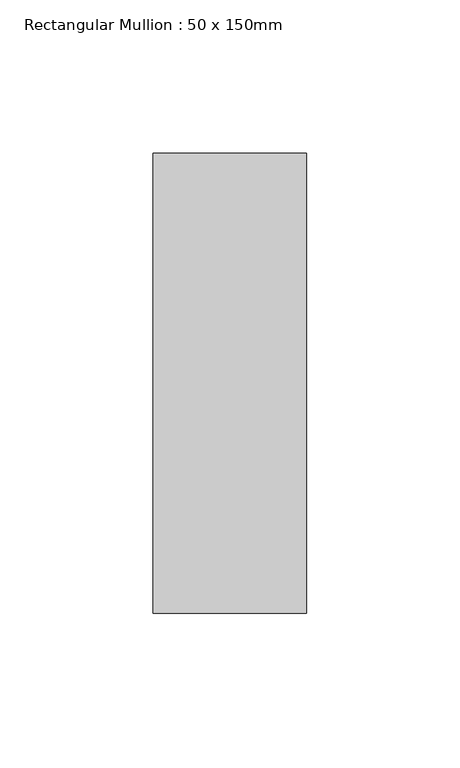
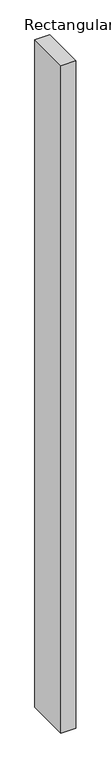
"""IFC4 building model written with IfcOpenShell, lengths in millimetres: member geometry, Rectangular Mullion : 50 x 150mm."""

import ifcopenshell
import ifcopenshell.guid

model = None  # the IFC model being written
_history = None  # IfcOwnerHistory: only IFC2X3 demands one
_inside = {}  # id of a spatial element -> (the spatial element, [elements in it])
_under = {}  # id of a project, library or spatial element -> (it, [spatial elements below it])
_declared = {}  # id of a project -> (the project, [libraries it declares])
_typed = {}  # id of a type object -> (the type object, [elements of that type])
_made_of = {}  # id of a material, layer set ... -> (it, [elements and type objects made of it])


def new_model(schema):
    """Start an empty IFC model of exactly this schema.

    Asked for "IFC4X3", IfcOpenShell would pick the latest addendum, in which some entities
    have other attributes; the version numbers below select the first issue.
    IFC2X3 requires an IfcOwnerHistory on every rooted entity: one is made here for all.
    """
    global model, _history
    if schema == "IFC4X3":
        model = ifcopenshell.file(schema_version=(4, 3, 0, 0))
    else:
        model = ifcopenshell.file(schema=schema)
    _inside.clear()
    _under.clear()
    _declared.clear()
    _typed.clear()
    _made_of.clear()
    _history = None
    if model.schema == "IFC2X3":
        org = make("IfcOrganization", Name="unknown")
        user = make(
            "IfcPersonAndOrganization",
            ThePerson=make("IfcPerson", FamilyName="unknown"),
            TheOrganization=org,
        )
        app = make(
            "IfcApplication",
            ApplicationDeveloper=org,
            Version="unknown",
            ApplicationFullName="unknown",
            ApplicationIdentifier="unknown",
        )
        _history = make(
            "IfcOwnerHistory",
            OwningUser=user,
            OwningApplication=app,
            ChangeAction="ADDED",
            CreationDate=0,
        )
    return model


def make(cls, **values):
    """One entity of the class cls with the attributes given. An attribute that is None is left unset."""
    return model.create_entity(
        cls, **{name: value for name, value in values.items() if value is not None}
    )


def rooted(cls, **values):
    """An entity with a GlobalId (a new one), such as an element, a storey or a relation."""
    return make(cls, GlobalId=ifcopenshell.guid.new(), OwnerHistory=_history, **values)


def si_unit(unit_type, name, prefix=None):
    """IfcSIUnit, for example si_unit("LENGTHUNIT", "METRE", prefix="MILLI")."""
    return make("IfcSIUnit", UnitType=unit_type, Prefix=prefix, Name=name)


def assignment(units):
    """IfcUnitAssignment: the units of a project."""
    return None if units is None else make("IfcUnitAssignment", Units=units)


def point(xyz):
    """IfcCartesianPoint."""
    return None if xyz is None else make("IfcCartesianPoint", Coordinates=xyz)


def direction(xyz):
    """IfcDirection."""
    return None if xyz is None else make("IfcDirection", DirectionRatios=xyz)


def frame(location, z_axis=None, x_axis=None):
    """IfcAxis2Placement3D, a coordinate frame: its origin and axes. An axis left out is left unset."""
    return make(
        "IfcAxis2Placement3D",
        Location=point(location),
        Axis=direction(z_axis),
        RefDirection=direction(x_axis),
    )


def origin():
    """The frame at (0, 0, 0) with its axes left unset."""
    return frame((0.0, 0.0, 0.0))


def place(relative_to, where):
    """IfcLocalPlacement: puts the frame where relative to a parent placement (None: the world)."""
    return make(
        "IfcLocalPlacement", PlacementRelTo=relative_to, RelativePlacement=where
    )


def context(
    kind, dimensions, precision=None, world=None, true_north=None, identifier=None
):
    """IfcGeometricRepresentationContext, for example the 3D "Model" context."""
    return make(
        "IfcGeometricRepresentationContext",
        ContextIdentifier=identifier,
        ContextType=kind,
        CoordinateSpaceDimension=dimensions,
        Precision=precision,
        WorldCoordinateSystem=world,
        TrueNorth=true_north,
    )


def project(units=None, contexts=None):
    """IfcProject with its units and contexts."""
    return rooted(
        "IfcProject",
        Name="project",
        RepresentationContexts=contexts,
        UnitsInContext=assignment(units),
    )


def spatial(cls, under=None, at=None, **own):
    """A site, building, storey or space (cls), placed at a placement, below another one or the project."""
    s = rooted(cls, ObjectPlacement=at, **own)
    if under is not None:
        _under.setdefault(under.id(), (under, []))[1].append(s)
    return s


def polyline(points):
    """IfcPolyline through the points."""
    return make("IfcPolyline", Points=[point(p) for p in points])


def outline(outer, holes=None, kind="AREA"):
    """IfcArbitraryClosedProfileDef: a profile drawn as a closed curve; with holes, ...WithVoids."""
    if holes is None:
        return make("IfcArbitraryClosedProfileDef", ProfileType=kind, OuterCurve=outer)
    return make(
        "IfcArbitraryProfileDefWithVoids",
        ProfileType=kind,
        OuterCurve=outer,
        InnerCurves=holes,
    )


def extrude(swept, where, along, depth):
    """IfcExtrudedAreaSolid: the profile swept, set in the frame where, extruded along a direction by depth."""
    return make(
        "IfcExtrudedAreaSolid",
        SweptArea=swept,
        Position=where,
        ExtrudedDirection=direction(along),
        Depth=depth,
    )


def shape(context_of_items, identifier, shape_type, items):
    """IfcShapeRepresentation: the items that make up one representation, for example the "Body"."""
    return make(
        "IfcShapeRepresentation",
        ContextOfItems=context_of_items,
        RepresentationIdentifier=identifier,
        RepresentationType=shape_type,
        Items=items,
    )


def source(mapping_origin, context_of_items, identifier, shape_type, items):
    """IfcRepresentationMap: a shape defined once, which mapped items show again and again."""
    return make(
        "IfcRepresentationMap",
        MappingOrigin=mapping_origin,
        MappedRepresentation=shape(context_of_items, identifier, shape_type, items),
    )


def transform(
    local_origin,
    x_axis=None,
    y_axis=None,
    z_axis=None,
    scale=None,
    scale2=None,
    scale3=None,
    uniform=True,
):
    """IfcCartesianTransformationOperator3D, or its non-uniform kind. x_axis, y_axis, z_axis: its Axis1, 2, 3."""
    if uniform:
        return make(
            "IfcCartesianTransformationOperator3D",
            Axis1=direction(x_axis),
            Axis2=direction(y_axis),
            LocalOrigin=point(local_origin),
            Scale=scale,
            Axis3=direction(z_axis),
        )
    return make(
        "IfcCartesianTransformationOperator3DnonUniform",
        Axis1=direction(x_axis),
        Axis2=direction(y_axis),
        LocalOrigin=point(local_origin),
        Scale=scale,
        Axis3=direction(z_axis),
        Scale2=scale2,
        Scale3=scale3,
    )


def mapped(mapping_source, mapping_target):
    """IfcMappedItem: shows the shape of a source again, moved by a transform."""
    return make(
        "IfcMappedItem", MappingSource=mapping_source, MappingTarget=mapping_target
    )


def made_of(thing, what):
    """Note that an element or type object is made of a material, layer set ...; save() writes the relation."""
    if what is not None:
        _made_of.setdefault(what.id(), (what, []))[1].append(thing)
    return thing


def element(
    cls,
    number,
    at=None,
    inside=None,
    cuts=None,
    type_object=None,
    material=None,
    context=None,
    identifier="Body",
    shape_type=None,
    held_by="IfcProductDefinitionShape",
    body=None,
    shapes=None,
    **own,
):
    """One element of the class cls, such as IfcWall. Its Tag is "e" and its number.

    at: its placement. inside: the storey or other place that contains it. cuts: it is an
    opening in that element (IfcRelVoidsElement). A single representation is given by context,
    identifier, shape_type and body (its items); several are given by shapes. held_by: the class
    of the entity that holds the representations. save() writes the other relations.
    """
    e = rooted(cls, Tag="e%d" % number, ObjectPlacement=at, **own)
    if body is not None:
        shapes = [shape(context, identifier, shape_type, body)]
    if shapes is not None:
        e.Representation = make(held_by, Representations=shapes)
    if inside is not None:
        _inside.setdefault(inside.id(), (inside, []))[1].append(e)
    if cuts is not None:
        rooted(
            "IfcRelVoidsElement", RelatingBuildingElement=cuts, RelatedOpeningElement=e
        )
    if type_object is not None:
        _typed.setdefault(type_object.id(), (type_object, []))[1].append(e)
    return made_of(e, material)


def aggregate(whole, parts):
    """IfcRelAggregates: a whole, such as a stair, and the parts it consists of."""
    return rooted("IfcRelAggregates", RelatingObject=whole, RelatedObjects=parts)


def save(model, path):
    """Write the relations noted so far, then the file.

    IfcRelAggregates (storeys below a building ...), IfcRelContainedInSpatialStructure (elements
    in a storey), IfcRelDefinesByType, IfcRelAssociatesMaterial and IfcRelDeclares: one each for
    every whole, place, type object, material and project.
    """
    for whole, parts in _under.values():
        aggregate(whole, parts)
    for where, things in _inside.values():
        rooted(
            "IfcRelContainedInSpatialStructure",
            RelatedElements=things,
            RelatingStructure=where,
        )
    for kind, things in _typed.values():
        rooted("IfcRelDefinesByType", RelatedObjects=things, RelatingType=kind)
    for what, things in _made_of.values():
        rooted("IfcRelAssociatesMaterial", RelatedObjects=things, RelatingMaterial=what)
    for by, libraries in _declared.values():
        rooted("IfcRelDeclares", RelatingContext=by, RelatedDefinitions=libraries)
    model.write(path)


def rectangular_mullion_50_x_150mm_983cf9b3(model_context):
    return source(origin(), model_context, "Body", "SweptSolid", [
        extrude(outline(polyline([(25.0, 75.0), (25.0, -75.0), (-25.0, -75.0), (-25.0, 75.0), (25.0, 75.0)])), frame((0.0, 0.0, -2346.9536995), z_axis=(0.0, 0.0, 1.0), x_axis=(1.0, 0.0, 0.0)), (0.0, 0.0, 1.0), 2346.9536995),
    ])


if __name__ == "__main__":
    model = new_model("IFC4")
    model_context = context("Model", 3, world=origin())
    ifc_project = project(units=[si_unit("LENGTHUNIT", "METRE", prefix="MILLI")], contexts=[model_context])
    site = spatial("IfcSite", under=ifc_project)
    building = spatial("IfcBuilding", under=site)
    placement = place(None, origin())
    rectangular_mullion_50_x_150mm_shape = rectangular_mullion_50_x_150mm_983cf9b3(model_context)
    element("IfcMember", 1, ObjectType="Rectangular Mullion : 50 x 150mm", at=placement, inside=building, context=model_context, shape_type="MappedRepresentation", body=[
        mapped(rectangular_mullion_50_x_150mm_shape, transform((0.0, 0.0, 0.0), x_axis=(1.0, 0.0, 0.0), y_axis=(0.0, 1.0, 0.0), z_axis=(0.0, 0.0, 1.0))),
    ])
    save(model, "model.ifc")
